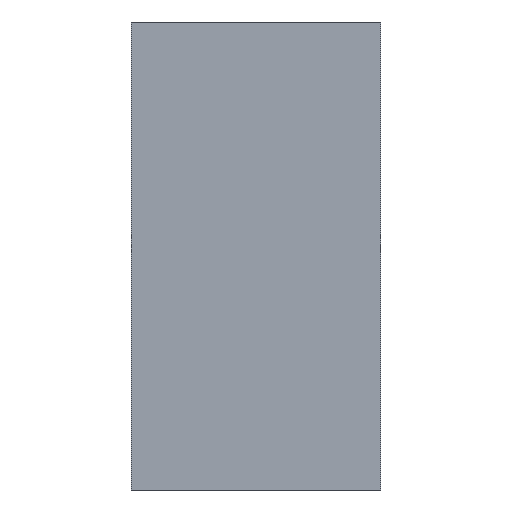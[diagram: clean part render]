
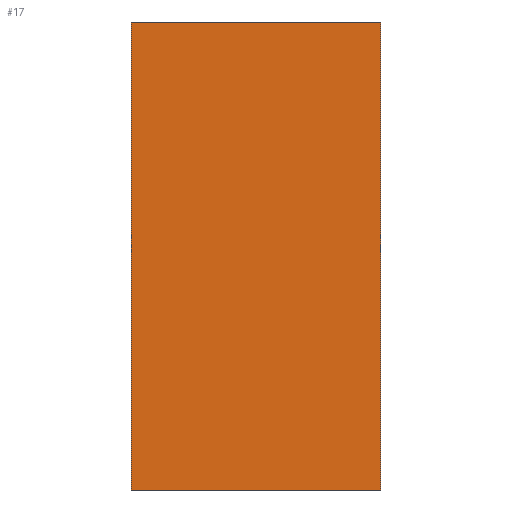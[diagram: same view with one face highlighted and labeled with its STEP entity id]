
A CAD part, left-side view. The second image highlights one B-rep face of the part: STEP entity #17.
In plain terms, the highlighted planar face has unit normal (-1, 0, 0).
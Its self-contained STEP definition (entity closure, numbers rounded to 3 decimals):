
#17 = ADVANCED_FACE('',(#18),#32,.F.);
#18 = FACE_BOUND('',#19,.F.);
#19 = EDGE_LOOP('',(#20,#55,#83,#111));
#20 = ORIENTED_EDGE('',*,*,#21,.F.);
#21 = EDGE_CURVE('',#22,#24,#26,.T.);
#22 = VERTEX_POINT('',#23);
#23 = CARTESIAN_POINT('',(59.,-28.,-227.5));
#24 = VERTEX_POINT('',#25);
#25 = CARTESIAN_POINT('',(59.,-28.,-152.5));
#26 = SURFACE_CURVE('',#27,(#31,#43),.PCURVE_S1.);
#27 = LINE('',#28,#29);
#28 = CARTESIAN_POINT('',(59.,-28.,-227.5));
#29 = VECTOR('',#30,1.);
#30 = DIRECTION('',(0.,0.,1.));
#31 = PCURVE('',#32,#37);
#32 = PLANE('',#33);
#33 = AXIS2_PLACEMENT_3D('',#34,#35,#36);
#34 = CARTESIAN_POINT('',(59.,-28.,-227.5));
#35 = DIRECTION('',(1.,0.,0.));
#36 = DIRECTION('',(0.,0.,1.));
#37 = DEFINITIONAL_REPRESENTATION('',(#38),#42);
#38 = LINE('',#39,#40);
#39 = CARTESIAN_POINT('',(0.,0.));
#40 = VECTOR('',#41,1.);
#41 = DIRECTION('',(1.,0.));
#42 = ( GEOMETRIC_REPRESENTATION_CONTEXT(2) 
PARAMETRIC_REPRESENTATION_CONTEXT() REPRESENTATION_CONTEXT('2D SPACE',''
  ) );
#43 = PCURVE('',#44,#49);
#44 = PLANE('',#45);
#45 = AXIS2_PLACEMENT_3D('',#46,#47,#48);
#46 = CARTESIAN_POINT('',(59.,-28.,-227.5));
#47 = DIRECTION('',(0.,1.,0.));
#48 = DIRECTION('',(0.,0.,1.));
#49 = DEFINITIONAL_REPRESENTATION('',(#50),#54);
#50 = LINE('',#51,#52);
#51 = CARTESIAN_POINT('',(0.,0.));
#52 = VECTOR('',#53,1.);
#53 = DIRECTION('',(1.,0.));
#54 = ( GEOMETRIC_REPRESENTATION_CONTEXT(2) 
PARAMETRIC_REPRESENTATION_CONTEXT() REPRESENTATION_CONTEXT('2D SPACE',''
  ) );
#55 = ORIENTED_EDGE('',*,*,#56,.T.);
#56 = EDGE_CURVE('',#22,#57,#59,.T.);
#57 = VERTEX_POINT('',#58);
#58 = CARTESIAN_POINT('',(59.,12.,-227.5));
#59 = SURFACE_CURVE('',#60,(#64,#71),.PCURVE_S1.);
#60 = LINE('',#61,#62);
#61 = CARTESIAN_POINT('',(59.,-28.,-227.5));
#62 = VECTOR('',#63,1.);
#63 = DIRECTION('',(0.,1.,0.));
#64 = PCURVE('',#32,#65);
#65 = DEFINITIONAL_REPRESENTATION('',(#66),#70);
#66 = LINE('',#67,#68);
#67 = CARTESIAN_POINT('',(0.,0.));
#68 = VECTOR('',#69,1.);
#69 = DIRECTION('',(0.,-1.));
#70 = ( GEOMETRIC_REPRESENTATION_CONTEXT(2) 
PARAMETRIC_REPRESENTATION_CONTEXT() REPRESENTATION_CONTEXT('2D SPACE',''
  ) );
#71 = PCURVE('',#72,#77);
#72 = PLANE('',#73);
#73 = AXIS2_PLACEMENT_3D('',#74,#75,#76);
#74 = CARTESIAN_POINT('',(59.,-28.,-227.5));
#75 = DIRECTION('',(0.,0.,1.));
#76 = DIRECTION('',(1.,0.,0.));
#77 = DEFINITIONAL_REPRESENTATION('',(#78),#82);
#78 = LINE('',#79,#80);
#79 = CARTESIAN_POINT('',(0.,0.));
#80 = VECTOR('',#81,1.);
#81 = DIRECTION('',(0.,1.));
#82 = ( GEOMETRIC_REPRESENTATION_CONTEXT(2) 
PARAMETRIC_REPRESENTATION_CONTEXT() REPRESENTATION_CONTEXT('2D SPACE',''
  ) );
#83 = ORIENTED_EDGE('',*,*,#84,.T.);
#84 = EDGE_CURVE('',#57,#85,#87,.T.);
#85 = VERTEX_POINT('',#86);
#86 = CARTESIAN_POINT('',(59.,12.,-152.5));
#87 = SURFACE_CURVE('',#88,(#92,#99),.PCURVE_S1.);
#88 = LINE('',#89,#90);
#89 = CARTESIAN_POINT('',(59.,12.,-227.5));
#90 = VECTOR('',#91,1.);
#91 = DIRECTION('',(0.,0.,1.));
#92 = PCURVE('',#32,#93);
#93 = DEFINITIONAL_REPRESENTATION('',(#94),#98);
#94 = LINE('',#95,#96);
#95 = CARTESIAN_POINT('',(0.,-40.));
#96 = VECTOR('',#97,1.);
#97 = DIRECTION('',(1.,0.));
#98 = ( GEOMETRIC_REPRESENTATION_CONTEXT(2) 
PARAMETRIC_REPRESENTATION_CONTEXT() REPRESENTATION_CONTEXT('2D SPACE',''
  ) );
#99 = PCURVE('',#100,#105);
#100 = PLANE('',#101);
#101 = AXIS2_PLACEMENT_3D('',#102,#103,#104);
#102 = CARTESIAN_POINT('',(59.,12.,-227.5));
#103 = DIRECTION('',(0.,1.,0.));
#104 = DIRECTION('',(0.,0.,1.));
#105 = DEFINITIONAL_REPRESENTATION('',(#106),#110);
#106 = LINE('',#107,#108);
#107 = CARTESIAN_POINT('',(0.,0.));
#108 = VECTOR('',#109,1.);
#109 = DIRECTION('',(1.,0.));
#110 = ( GEOMETRIC_REPRESENTATION_CONTEXT(2) 
PARAMETRIC_REPRESENTATION_CONTEXT() REPRESENTATION_CONTEXT('2D SPACE',''
  ) );
#111 = ORIENTED_EDGE('',*,*,#112,.F.);
#112 = EDGE_CURVE('',#24,#85,#113,.T.);
#113 = SURFACE_CURVE('',#114,(#118,#125),.PCURVE_S1.);
#114 = LINE('',#115,#116);
#115 = CARTESIAN_POINT('',(59.,-28.,-152.5));
#116 = VECTOR('',#117,1.);
#117 = DIRECTION('',(0.,1.,0.));
#118 = PCURVE('',#32,#119);
#119 = DEFINITIONAL_REPRESENTATION('',(#120),#124);
#120 = LINE('',#121,#122);
#121 = CARTESIAN_POINT('',(75.,0.));
#122 = VECTOR('',#123,1.);
#123 = DIRECTION('',(0.,-1.));
#124 = ( GEOMETRIC_REPRESENTATION_CONTEXT(2) 
PARAMETRIC_REPRESENTATION_CONTEXT() REPRESENTATION_CONTEXT('2D SPACE',''
  ) );
#125 = PCURVE('',#126,#131);
#126 = PLANE('',#127);
#127 = AXIS2_PLACEMENT_3D('',#128,#129,#130);
#128 = CARTESIAN_POINT('',(59.,-28.,-152.5));
#129 = DIRECTION('',(0.,0.,1.));
#130 = DIRECTION('',(1.,0.,0.));
#131 = DEFINITIONAL_REPRESENTATION('',(#132),#136);
#132 = LINE('',#133,#134);
#133 = CARTESIAN_POINT('',(0.,0.));
#134 = VECTOR('',#135,1.);
#135 = DIRECTION('',(0.,1.));
#136 = ( GEOMETRIC_REPRESENTATION_CONTEXT(2) 
PARAMETRIC_REPRESENTATION_CONTEXT() REPRESENTATION_CONTEXT('2D SPACE',''
  ) );
